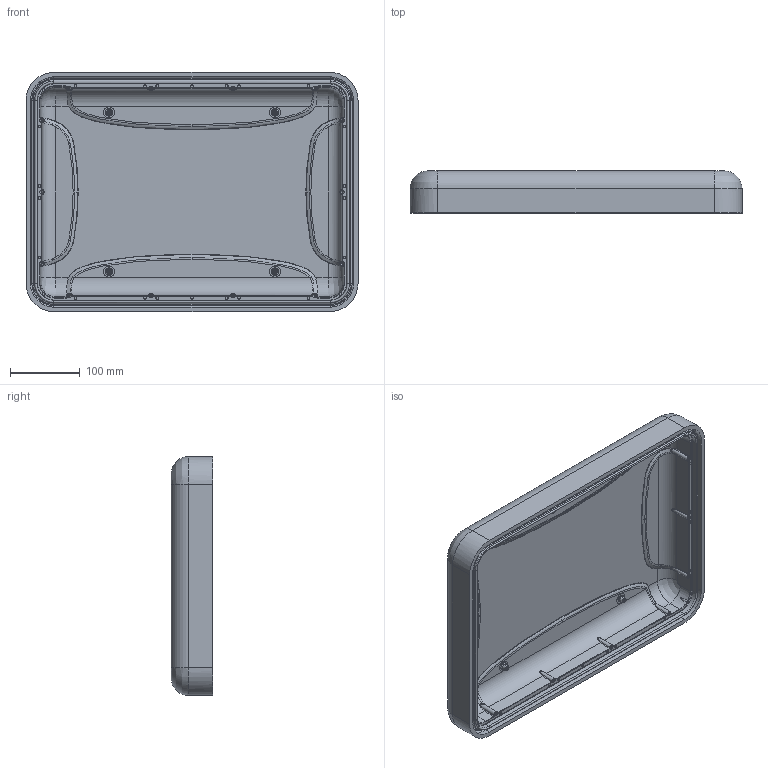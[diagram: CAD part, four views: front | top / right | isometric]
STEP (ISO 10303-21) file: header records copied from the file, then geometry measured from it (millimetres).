
FILE_DESCRIPTION (( 'STEP AP203' ), '1' );
FILE_NAME ('925_R1_Top_INNER_SURFACE_STEP.STEP', '2020-03-18T19:20:57', ( 'Sylvain' ), ( '' ), 'SwSTEP 2.0', 'SolidWorks 2018', '' );
FILE_SCHEMA (( 'CONFIG_CONTROL_DESIGN' ));
Length unit declared in the file: inch
Products named in the file (1): 925_R1_Top_INNER_SURFACE_STEP
Bounding box: 476.39 x 60 x 343.04 mm (x, y, z)
Volume: 2846754.8 mm3; surface area: 485796.9 mm2
Topology: 1 solids, 1 shells, 912 faces, 2183 edges, 1360 vertices
Faces by surface type: plane 344, bspline 294, torus 118, cylinder 98, cone 56, sphere 2
Entity records: 52185 total; most frequent: CARTESIAN_POINT 32835, ORIENTED_EDGE 4362, DIRECTION 3437, EDGE_CURVE 2181, VERTEX_POINT 1360, AXIS2_PLACEMENT_3D 1237, EDGE_LOOP 1001, LINE 963
